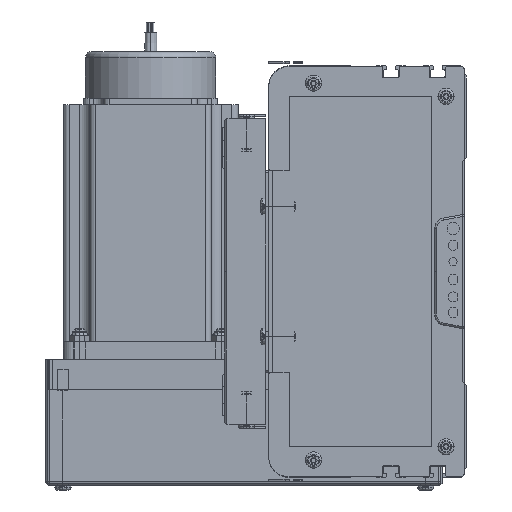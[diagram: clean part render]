
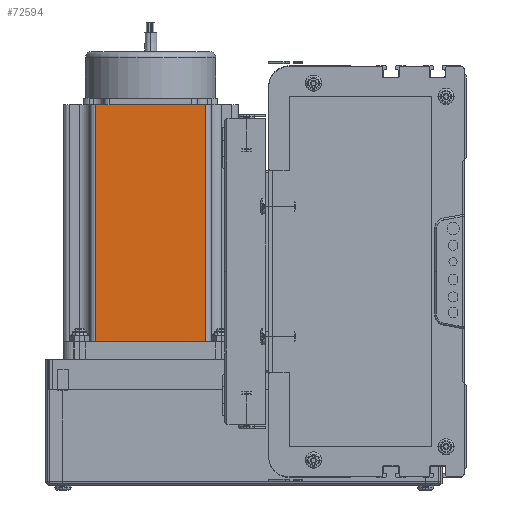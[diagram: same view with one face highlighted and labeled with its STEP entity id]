
A CAD part, left-side view. The second image highlights one B-rep face of the part: STEP entity #72594.
In plain terms, the highlighted planar face has unit normal (-1, 0, 0) as drawn and (0, -1, 0) by its records, which use the part's own axes.
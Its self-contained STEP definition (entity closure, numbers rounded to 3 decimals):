
#72044 = VERTEX_POINT ( 'NONE', #107685 ) ;
#72050 = ORIENTED_EDGE ( 'NONE', *, *, #72791, .F. ) ;
#72053 = EDGE_CURVE ( 'NONE', #72044, #72256, #107719, .T. ) ;
#72132 = VERTEX_POINT ( 'NONE', #107772 ) ;
#72256 = VERTEX_POINT ( 'NONE', #107967 ) ;
#72391 = EDGE_CURVE ( 'NONE', #72132, #72393, #108288, .T. ) ;
#72393 = VERTEX_POINT ( 'NONE', #108344 ) ;
#72588 = ORIENTED_EDGE ( 'NONE', *, *, #72053, .T. ) ;
#72594 = ADVANCED_FACE ( 'NONE', ( #108696 ), #108678, .F. ) ;
#72599 = ORIENTED_EDGE ( 'NONE', *, *, #72391, .T. ) ;
#72601 = EDGE_CURVE ( 'NONE', #72256, #72132, #108724, .T. ) ;
#72713 = ORIENTED_EDGE ( 'NONE', *, *, #72601, .T. ) ;
#72765 = EDGE_LOOP ( 'NONE', ( #72713, #72599, #72050, #72588 ) ) ;
#72791 = EDGE_CURVE ( 'NONE', #72044, #72393, #109122, .T. ) ;
#107685 = CARTESIAN_POINT ( 'NONE',  ( 16.16, 0., 116.5 ) ) ;
#107711 = DIRECTION ( 'NONE',  ( 0., 0., -1. ) ) ;
#107712 = VECTOR ( 'NONE', #107711, 1000. ) ;
#107718 = CARTESIAN_POINT ( 'NONE',  ( 16.16, 0., 116.5 ) ) ;
#107719 = LINE ( 'NONE', #107718, #107712 ) ;
#107772 = CARTESIAN_POINT ( 'NONE',  ( 69.74, 0., 0. ) ) ;
#107967 = CARTESIAN_POINT ( 'NONE',  ( 16.16, 0., 0. ) ) ;
#108288 = LINE ( 'NONE', #108346, #108342 ) ;
#108341 = DIRECTION ( 'NONE',  ( 0., 0., 1. ) ) ;
#108342 = VECTOR ( 'NONE', #108341, 1000. ) ;
#108344 = CARTESIAN_POINT ( 'NONE',  ( 69.74, 0., 116.5 ) ) ;
#108346 = CARTESIAN_POINT ( 'NONE',  ( 69.74, 0., 116.5 ) ) ;
#108667 = DIRECTION ( 'NONE',  ( 0., 1., 0. ) ) ;
#108678 = PLANE ( 'NONE',  #108688 ) ;
#108686 = VECTOR ( 'NONE', #108713, 1000. ) ;
#108688 = AXIS2_PLACEMENT_3D ( 'NONE', #108694, #108667, #108699 ) ;
#108694 = CARTESIAN_POINT ( 'NONE',  ( 0., 0., 116.5 ) ) ;
#108696 = FACE_OUTER_BOUND ( 'NONE', #72765, .T. ) ;
#108699 = DIRECTION ( 'NONE',  ( 0., 0., 1. ) ) ;
#108713 = DIRECTION ( 'NONE',  ( 1., 0., 0. ) ) ;
#108723 = CARTESIAN_POINT ( 'NONE',  ( 0., 0., 0. ) ) ;
#108724 = LINE ( 'NONE', #108723, #108686 ) ;
#109116 = DIRECTION ( 'NONE',  ( 1., 0., 0. ) ) ;
#109117 = VECTOR ( 'NONE', #109116, 1000. ) ;
#109121 = CARTESIAN_POINT ( 'NONE',  ( 0., 0., 116.5 ) ) ;
#109122 = LINE ( 'NONE', #109121, #109117 ) ;
